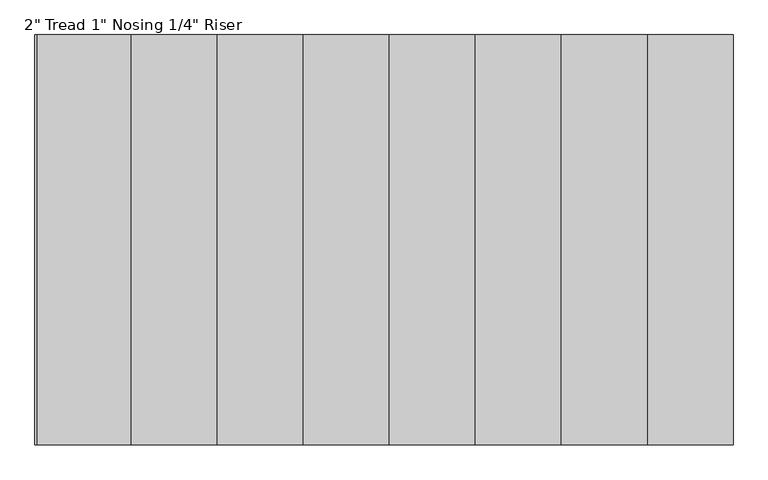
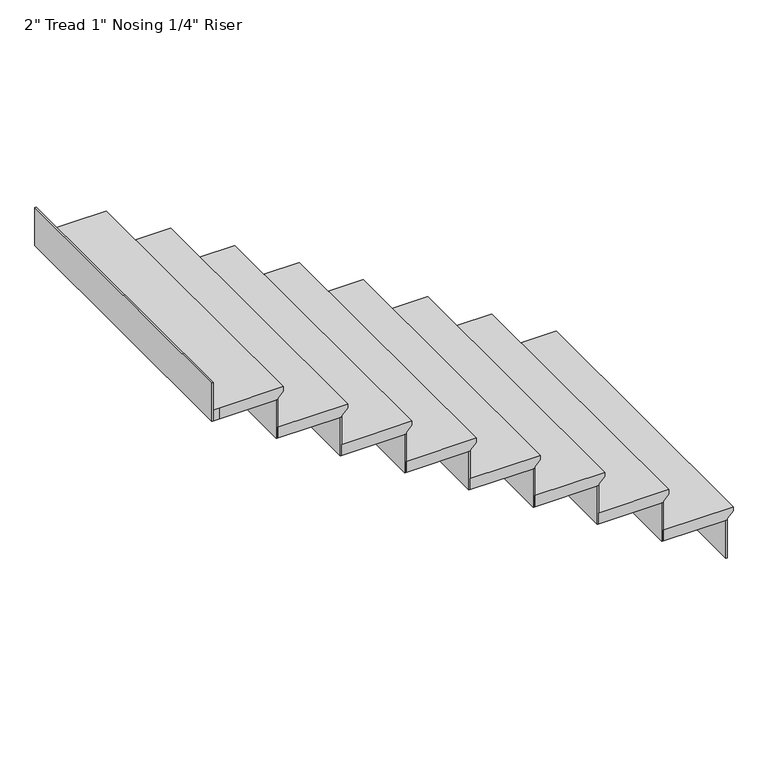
"""IFC4 building model written with IfcOpenShell, lengths in millimetres: stair flight geometry."""

import ifcopenshell
import ifcopenshell.guid

model = None  # the IFC model being written
_history = None  # IfcOwnerHistory: only IFC2X3 demands one
_inside = {}  # id of a spatial element -> (the spatial element, [elements in it])
_under = {}  # id of a project, library or spatial element -> (it, [spatial elements below it])
_declared = {}  # id of a project -> (the project, [libraries it declares])
_typed = {}  # id of a type object -> (the type object, [elements of that type])
_made_of = {}  # id of a material, layer set ... -> (it, [elements and type objects made of it])


def new_model(schema):
    """Start an empty IFC model of exactly this schema.

    Asked for "IFC4X3", IfcOpenShell would pick the latest addendum, in which some entities
    have other attributes; the version numbers below select the first issue.
    IFC2X3 requires an IfcOwnerHistory on every rooted entity: one is made here for all.
    """
    global model, _history
    if schema == "IFC4X3":
        model = ifcopenshell.file(schema_version=(4, 3, 0, 0))
    else:
        model = ifcopenshell.file(schema=schema)
    _inside.clear()
    _under.clear()
    _declared.clear()
    _typed.clear()
    _made_of.clear()
    _history = None
    if model.schema == "IFC2X3":
        org = make("IfcOrganization", Name="unknown")
        user = make(
            "IfcPersonAndOrganization",
            ThePerson=make("IfcPerson", FamilyName="unknown"),
            TheOrganization=org,
        )
        app = make(
            "IfcApplication",
            ApplicationDeveloper=org,
            Version="unknown",
            ApplicationFullName="unknown",
            ApplicationIdentifier="unknown",
        )
        _history = make(
            "IfcOwnerHistory",
            OwningUser=user,
            OwningApplication=app,
            ChangeAction="ADDED",
            CreationDate=0,
        )
    return model


def make(cls, **values):
    """One entity of the class cls with the attributes given. An attribute that is None is left unset."""
    return model.create_entity(
        cls, **{name: value for name, value in values.items() if value is not None}
    )


def rooted(cls, **values):
    """An entity with a GlobalId (a new one), such as an element, a storey or a relation."""
    return make(cls, GlobalId=ifcopenshell.guid.new(), OwnerHistory=_history, **values)


def si_unit(unit_type, name, prefix=None):
    """IfcSIUnit, for example si_unit("LENGTHUNIT", "METRE", prefix="MILLI")."""
    return make("IfcSIUnit", UnitType=unit_type, Prefix=prefix, Name=name)


def assignment(units):
    """IfcUnitAssignment: the units of a project."""
    return None if units is None else make("IfcUnitAssignment", Units=units)


def point(xyz):
    """IfcCartesianPoint."""
    return None if xyz is None else make("IfcCartesianPoint", Coordinates=xyz)


def direction(xyz):
    """IfcDirection."""
    return None if xyz is None else make("IfcDirection", DirectionRatios=xyz)


def frame(location, z_axis=None, x_axis=None):
    """IfcAxis2Placement3D, a coordinate frame: its origin and axes. An axis left out is left unset."""
    return make(
        "IfcAxis2Placement3D",
        Location=point(location),
        Axis=direction(z_axis),
        RefDirection=direction(x_axis),
    )


def origin():
    """The frame at (0, 0, 0) with its axes left unset."""
    return frame((0.0, 0.0, 0.0))


def place(relative_to, where):
    """IfcLocalPlacement: puts the frame where relative to a parent placement (None: the world)."""
    return make(
        "IfcLocalPlacement", PlacementRelTo=relative_to, RelativePlacement=where
    )


def context(
    kind, dimensions, precision=None, world=None, true_north=None, identifier=None
):
    """IfcGeometricRepresentationContext, for example the 3D "Model" context."""
    return make(
        "IfcGeometricRepresentationContext",
        ContextIdentifier=identifier,
        ContextType=kind,
        CoordinateSpaceDimension=dimensions,
        Precision=precision,
        WorldCoordinateSystem=world,
        TrueNorth=true_north,
    )


def project(units=None, contexts=None):
    """IfcProject with its units and contexts."""
    return rooted(
        "IfcProject",
        Name="project",
        RepresentationContexts=contexts,
        UnitsInContext=assignment(units),
    )


def spatial(cls, under=None, at=None, **own):
    """A site, building, storey or space (cls), placed at a placement, below another one or the project."""
    s = rooted(cls, ObjectPlacement=at, **own)
    if under is not None:
        _under.setdefault(under.id(), (under, []))[1].append(s)
    return s


def faces_of(points, faces, orient=None, outer=None):
    """IfcFace entities. A face is a list of loops; a loop is a list of indices into points, from 0.

    orient and outer hold one flag for each loop. By default every Orientation is true, the
    first loop of a face is its IfcFaceOuterBound and the others are IfcFaceBound.
    """
    made = []
    for i, loops in enumerate(faces):
        bounds = []
        for j, loop in enumerate(loops):
            is_outer = j == 0 if outer is None else outer[i][j]
            bounds.append(
                make(
                    "IfcFaceOuterBound" if is_outer else "IfcFaceBound",
                    Bound=make("IfcPolyLoop", Polygon=[points[k] for k in loop]),
                    Orientation=True if orient is None else orient[i][j],
                )
            )
        made.append(make("IfcFace", Bounds=bounds))
    return made


def faceted_brep(points, faces, orient=None, outer=None, voids=None):
    """IfcFacetedBrep: a solid bounded by flat faces; with voids (closed shells), ...WithVoids."""
    shared = [point(p) for p in points]
    hull = make("IfcClosedShell", CfsFaces=faces_of(shared, faces, orient, outer))
    if voids is None:
        return make("IfcFacetedBrep", Outer=hull)
    return make(
        "IfcFacetedBrepWithVoids",
        Outer=hull,
        Voids=[
            make(cls, CfsFaces=faces_of(shared, fs, o, b)) for cls, fs, o, b in voids
        ],
    )


def shape(context_of_items, identifier, shape_type, items):
    """IfcShapeRepresentation: the items that make up one representation, for example the "Body"."""
    return make(
        "IfcShapeRepresentation",
        ContextOfItems=context_of_items,
        RepresentationIdentifier=identifier,
        RepresentationType=shape_type,
        Items=items,
    )


def source(mapping_origin, context_of_items, identifier, shape_type, items):
    """IfcRepresentationMap: a shape defined once, which mapped items show again and again."""
    return make(
        "IfcRepresentationMap",
        MappingOrigin=mapping_origin,
        MappedRepresentation=shape(context_of_items, identifier, shape_type, items),
    )


def transform(
    local_origin,
    x_axis=None,
    y_axis=None,
    z_axis=None,
    scale=None,
    scale2=None,
    scale3=None,
    uniform=True,
):
    """IfcCartesianTransformationOperator3D, or its non-uniform kind. x_axis, y_axis, z_axis: its Axis1, 2, 3."""
    if uniform:
        return make(
            "IfcCartesianTransformationOperator3D",
            Axis1=direction(x_axis),
            Axis2=direction(y_axis),
            LocalOrigin=point(local_origin),
            Scale=scale,
            Axis3=direction(z_axis),
        )
    return make(
        "IfcCartesianTransformationOperator3DnonUniform",
        Axis1=direction(x_axis),
        Axis2=direction(y_axis),
        LocalOrigin=point(local_origin),
        Scale=scale,
        Axis3=direction(z_axis),
        Scale2=scale2,
        Scale3=scale3,
    )


def mapped(mapping_source, mapping_target):
    """IfcMappedItem: shows the shape of a source again, moved by a transform."""
    return make(
        "IfcMappedItem", MappingSource=mapping_source, MappingTarget=mapping_target
    )


def made_of(thing, what):
    """Note that an element or type object is made of a material, layer set ...; save() writes the relation."""
    if what is not None:
        _made_of.setdefault(what.id(), (what, []))[1].append(thing)
    return thing


def element(
    cls,
    number,
    at=None,
    inside=None,
    cuts=None,
    type_object=None,
    material=None,
    context=None,
    identifier="Body",
    shape_type=None,
    held_by="IfcProductDefinitionShape",
    body=None,
    shapes=None,
    **own,
):
    """One element of the class cls, such as IfcWall. Its Tag is "e" and its number.

    at: its placement. inside: the storey or other place that contains it. cuts: it is an
    opening in that element (IfcRelVoidsElement). A single representation is given by context,
    identifier, shape_type and body (its items); several are given by shapes. held_by: the class
    of the entity that holds the representations. save() writes the other relations.
    """
    e = rooted(cls, Tag="e%d" % number, ObjectPlacement=at, **own)
    if body is not None:
        shapes = [shape(context, identifier, shape_type, body)]
    if shapes is not None:
        e.Representation = make(held_by, Representations=shapes)
    if inside is not None:
        _inside.setdefault(inside.id(), (inside, []))[1].append(e)
    if cuts is not None:
        rooted(
            "IfcRelVoidsElement", RelatingBuildingElement=cuts, RelatedOpeningElement=e
        )
    if type_object is not None:
        _typed.setdefault(type_object.id(), (type_object, []))[1].append(e)
    return made_of(e, material)


def aggregate(whole, parts):
    """IfcRelAggregates: a whole, such as a stair, and the parts it consists of."""
    return rooted("IfcRelAggregates", RelatingObject=whole, RelatedObjects=parts)


def save(model, path):
    """Write the relations noted so far, then the file.

    IfcRelAggregates (storeys below a building ...), IfcRelContainedInSpatialStructure (elements
    in a storey), IfcRelDefinesByType, IfcRelAssociatesMaterial and IfcRelDeclares: one each for
    every whole, place, type object, material and project.
    """
    for whole, parts in _under.values():
        aggregate(whole, parts)
    for where, things in _inside.values():
        rooted(
            "IfcRelContainedInSpatialStructure",
            RelatedElements=things,
            RelatingStructure=where,
        )
    for kind, things in _typed.values():
        rooted("IfcRelDefinesByType", RelatedObjects=things, RelatingType=kind)
    for what, things in _made_of.values():
        rooted("IfcRelAssociatesMaterial", RelatedObjects=things, RelatingMaterial=what)
    for by, libraries in _declared.values():
        rooted("IfcRelDeclares", RelatingContext=by, RelatedDefinitions=libraries)
    model.write(path)


def stair_flight_2c01031d(model_context):
    return source(origin(), model_context, "Body", "Brep", [
        faceted_brep([(13373.1000296, 27698.7058721, 1546.9152174), (13373.1000296, 27698.7058721, 1565.9652174), (13373.1000296, 26365.9151067, 1565.9652174), (13373.1000296, 26365.9151067, 1546.9152174), (13347.7000296, 27698.7058721, 1521.5152174), (13347.7000296, 26365.9151067, 1521.5152174), (13068.3000296, 27698.7058721, 1565.9652174), (13068.3000296, 26365.9151067, 1565.9652174), (13347.7000296, 26365.9151067, 1515.1652174), (13068.3000296, 26365.9151067, 1515.1652174), (13068.3000296, 27698.7058721, 1515.1652174), (13347.7000296, 27698.7058721, 1515.1652174)], [[[0, 1, 2, 3]], [[4, 0, 3, 5]], [[2, 1, 6, 7]], [[8, 9, 10, 11]], [[2, 7, 9, 8, 5, 3]], [[8, 11, 4, 5]], [[6, 1, 0, 4, 11, 10]], [[7, 6, 10, 9]]]),
        faceted_brep([(13347.7000296, 27698.7058721, 1515.1652174), (13347.7000296, 27698.7058721, 1338.4695652), (13341.3500296, 27698.7058721, 1338.4695652), (13341.3500296, 27698.7058721, 1515.1652174), (13347.7000296, 26365.9151067, 1515.1652174), (13341.3500296, 26365.9151067, 1515.1652174), (13341.3500296, 26365.9151067, 1338.4695652), (13347.7000296, 26365.9151067, 1338.4695652)], [[[0, 1, 2, 3]], [[4, 5, 6, 7]], [[1, 0, 4, 7]], [[2, 1, 7, 6]], [[3, 2, 6, 5]], [[0, 3, 5, 4]]]),
        faceted_brep([(13068.3000296, 27698.7058721, 1691.8608696), (13068.3000296, 27698.7058721, 1515.1652174), (13061.9500296, 27698.7058721, 1515.1652174), (13061.9500296, 27698.7058721, 1691.8608696), (13068.3000296, 26365.9151067, 1691.8608696), (13061.9500296, 26365.9151067, 1691.8608696), (13061.9500296, 26365.9151067, 1515.1652174), (13068.3000296, 26365.9151067, 1515.1652174)], [[[0, 1, 2, 3]], [[4, 5, 6, 7]], [[1, 0, 4, 7]], [[2, 1, 7, 6]], [[3, 2, 6, 5]], [[0, 3, 5, 4]]]),
        faceted_brep([(13093.7000296, 26365.9151067, 1742.6608696), (13093.7000296, 27698.7058721, 1742.6608696), (12788.9000296, 27698.7058721, 1742.6608696), (12788.9000296, 26365.9151067, 1742.6608696), (13068.3000296, 26365.9151067, 1691.8608696), (12788.9000296, 26365.9151067, 1691.8608696), (12788.9000296, 27698.7058721, 1691.8608696), (13068.3000296, 27698.7058721, 1691.8608696), (13068.3000296, 26365.9151067, 1698.2108696), (13093.7000296, 26365.9151067, 1723.6108696), (13068.3000296, 27698.7058721, 1698.2108696), (13093.7000296, 27698.7058721, 1723.6108696)], [[[0, 1, 2, 3]], [[4, 5, 6, 7]], [[0, 3, 5, 4, 8, 9]], [[4, 7, 10, 8]], [[2, 1, 11, 10, 7, 6]], [[3, 2, 6, 5]], [[11, 1, 0, 9]], [[10, 11, 9, 8]]]),
        faceted_brep([(12788.9000296, 27698.7058721, 1868.5565217), (12788.9000296, 27698.7058721, 1691.8608696), (12782.5500296, 27698.7058721, 1691.8608696), (12782.5500296, 27698.7058721, 1868.5565217), (12788.9000296, 26365.9151067, 1868.5565217), (12782.5500296, 26365.9151067, 1868.5565217), (12782.5500296, 26365.9151067, 1691.8608696), (12788.9000296, 26365.9151067, 1691.8608696)], [[[0, 1, 2, 3]], [[4, 5, 6, 7]], [[1, 0, 4, 7]], [[2, 1, 7, 6]], [[3, 2, 6, 5]], [[0, 3, 5, 4]]]),
        faceted_brep([(12814.3000296, 26365.9151067, 1919.3565217), (12814.3000296, 27698.7058721, 1919.3565217), (12509.5000296, 27698.7058721, 1919.3565217), (12509.5000296, 26365.9151067, 1919.3565217), (12788.9000296, 26365.9151067, 1868.5565217), (12509.5000296, 26365.9151067, 1868.5565217), (12509.5000296, 27698.7058721, 1868.5565217), (12788.9000296, 27698.7058721, 1868.5565217), (12788.9000296, 26365.9151067, 1874.9065217), (12814.3000296, 26365.9151067, 1900.3065217), (12788.9000296, 27698.7058721, 1874.9065217), (12814.3000296, 27698.7058721, 1900.3065217)], [[[0, 1, 2, 3]], [[4, 5, 6, 7]], [[0, 3, 5, 4, 8, 9]], [[4, 7, 10, 8]], [[2, 1, 11, 10, 7, 6]], [[3, 2, 6, 5]], [[11, 1, 0, 9]], [[10, 11, 9, 8]]]),
        faceted_brep([(12509.5000296, 27698.7058721, 2045.2521739), (12509.5000296, 27698.7058721, 1868.5565217), (12503.1500296, 27698.7058721, 1868.5565217), (12503.1500296, 27698.7058721, 2045.2521739), (12509.5000296, 26365.9151067, 2045.2521739), (12503.1500296, 26365.9151067, 2045.2521739), (12503.1500296, 26365.9151067, 1868.5565217), (12509.5000296, 26365.9151067, 1868.5565217)], [[[0, 1, 2, 3]], [[4, 5, 6, 7]], [[1, 0, 4, 7]], [[2, 1, 7, 6]], [[3, 2, 6, 5]], [[0, 3, 5, 4]]]),
        faceted_brep([(12534.9000296, 26365.9151067, 2096.0521739), (12534.9000296, 27698.7058721, 2096.0521739), (12230.1000296, 27698.7058721, 2096.0521739), (12230.1000296, 26365.9151067, 2096.0521739), (12509.5000296, 26365.9151067, 2045.2521739), (12230.1000296, 26365.9151067, 2045.2521739), (12230.1000296, 27698.7058721, 2045.2521739), (12509.5000296, 27698.7058721, 2045.2521739), (12509.5000296, 26365.9151067, 2051.6021739), (12534.9000296, 26365.9151067, 2077.0021739), (12509.5000296, 27698.7058721, 2051.6021739), (12534.9000296, 27698.7058721, 2077.0021739)], [[[0, 1, 2, 3]], [[4, 5, 6, 7]], [[0, 3, 5, 4, 8, 9]], [[4, 7, 10, 8]], [[2, 1, 11, 10, 7, 6]], [[3, 2, 6, 5]], [[11, 1, 0, 9]], [[10, 11, 9, 8]]]),
        faceted_brep([(12230.1000296, 27698.7058721, 2221.9478261), (12230.1000296, 27698.7058721, 2045.2521739), (12223.7500296, 27698.7058721, 2045.2521739), (12223.7500296, 27698.7058721, 2221.9478261), (12230.1000296, 26365.9151067, 2221.9478261), (12223.7500296, 26365.9151067, 2221.9478261), (12223.7500296, 26365.9151067, 2045.2521739), (12230.1000296, 26365.9151067, 2045.2521739)], [[[0, 1, 2, 3]], [[4, 5, 6, 7]], [[1, 0, 4, 7]], [[2, 1, 7, 6]], [[3, 2, 6, 5]], [[0, 3, 5, 4]]]),
        faceted_brep([(12255.5000296, 26365.9151067, 2272.7478261), (12255.5000296, 27698.7058721, 2272.7478261), (11950.7000296, 27698.7058721, 2272.7478261), (11950.7000296, 26365.9151067, 2272.7478261), (12230.1000296, 26365.9151067, 2221.9478261), (11950.7000296, 26365.9151067, 2221.9478261), (11950.7000296, 27698.7058721, 2221.9478261), (12230.1000296, 27698.7058721, 2221.9478261), (12230.1000296, 26365.9151067, 2228.2978261), (12255.5000296, 26365.9151067, 2253.6978261), (12230.1000296, 27698.7058721, 2228.2978261), (12255.5000296, 27698.7058721, 2253.6978261)], [[[0, 1, 2, 3]], [[4, 5, 6, 7]], [[0, 3, 5, 4, 8, 9]], [[4, 7, 10, 8]], [[2, 1, 11, 10, 7, 6]], [[3, 2, 6, 5]], [[11, 1, 0, 9]], [[10, 11, 9, 8]]]),
        faceted_brep([(11950.7000296, 27698.7058721, 2398.6434783), (11950.7000296, 27698.7058721, 2221.9478261), (11944.3500296, 27698.7058721, 2221.9478261), (11944.3500296, 27698.7058721, 2398.6434783), (11950.7000296, 26365.9151067, 2398.6434783), (11944.3500296, 26365.9151067, 2398.6434783), (11944.3500296, 26365.9151067, 2221.9478261), (11950.7000296, 26365.9151067, 2221.9478261)], [[[0, 1, 2, 3]], [[4, 5, 6, 7]], [[1, 0, 4, 7]], [[2, 1, 7, 6]], [[3, 2, 6, 5]], [[0, 3, 5, 4]]]),
        faceted_brep([(11976.1000296, 26365.9151067, 2449.4434783), (11976.1000296, 27698.7058721, 2449.4434783), (11671.3000296, 27698.7058721, 2449.4434783), (11671.3000296, 26365.9151067, 2449.4434783), (11950.7000296, 26365.9151067, 2398.6434783), (11671.3000296, 26365.9151067, 2398.6434783), (11671.3000296, 27698.7058721, 2398.6434783), (11950.7000296, 27698.7058721, 2398.6434783), (11950.7000296, 26365.9151067, 2404.9934783), (11976.1000296, 26365.9151067, 2430.3934783), (11950.7000296, 27698.7058721, 2404.9934783), (11976.1000296, 27698.7058721, 2430.3934783)], [[[0, 1, 2, 3]], [[4, 5, 6, 7]], [[0, 3, 5, 4, 8, 9]], [[4, 7, 10, 8]], [[2, 1, 11, 10, 7, 6]], [[3, 2, 6, 5]], [[11, 1, 0, 9]], [[10, 11, 9, 8]]]),
        faceted_brep([(11671.3000296, 27698.7058721, 2575.3391304), (11671.3000296, 27698.7058721, 2398.6434783), (11664.9500296, 27698.7058721, 2398.6434783), (11664.9500296, 27698.7058721, 2575.3391304), (11671.3000296, 26365.9151067, 2575.3391304), (11664.9500296, 26365.9151067, 2575.3391304), (11664.9500296, 26365.9151067, 2398.6434783), (11671.3000296, 26365.9151067, 2398.6434783)], [[[0, 1, 2, 3]], [[4, 5, 6, 7]], [[1, 0, 4, 7]], [[2, 1, 7, 6]], [[3, 2, 6, 5]], [[0, 3, 5, 4]]]),
        faceted_brep([(11696.7000296, 26365.9151067, 2626.1391304), (11696.7000296, 27698.7058721, 2626.1391304), (11391.9000296, 27698.7058721, 2626.1391304), (11391.9000296, 26365.9151067, 2626.1391304), (11671.3000296, 26365.9151067, 2575.3391304), (11391.9000296, 26365.9151067, 2575.3391304), (11391.9000296, 27698.7058721, 2575.3391304), (11671.3000296, 27698.7058721, 2575.3391304), (11671.3000296, 26365.9151067, 2581.6891304), (11696.7000296, 26365.9151067, 2607.0891304), (11671.3000296, 27698.7058721, 2581.6891304), (11696.7000296, 27698.7058721, 2607.0891304)], [[[0, 1, 2, 3]], [[4, 5, 6, 7]], [[0, 3, 5, 4, 8, 9]], [[4, 7, 10, 8]], [[2, 1, 11, 10, 7, 6]], [[3, 2, 6, 5]], [[11, 1, 0, 9]], [[10, 11, 9, 8]]]),
        faceted_brep([(11112.5000296, 27698.7058721, 2928.7304348), (11112.5000296, 27698.7058721, 2752.0347826), (11106.1500296, 27698.7058721, 2752.0347826), (11106.1500296, 27698.7058721, 2928.7304348), (11112.5000296, 26365.9151067, 2928.7304348), (11106.1500296, 26365.9151067, 2928.7304348), (11106.1500296, 26365.9151067, 2752.0347826), (11112.5000296, 26365.9151067, 2752.0347826)], [[[0, 1, 2, 3]], [[4, 5, 6, 7]], [[1, 0, 4, 7]], [[2, 1, 7, 6]], [[3, 2, 6, 5]], [[0, 3, 5, 4]]]),
        faceted_brep([(11391.9000296, 27698.7058721, 2752.0347826), (11391.9000296, 27698.7058721, 2575.3391304), (11385.5500296, 27698.7058721, 2575.3391304), (11385.5500296, 27698.7058721, 2752.0347826), (11391.9000296, 26365.9151067, 2752.0347826), (11385.5500296, 26365.9151067, 2752.0347826), (11385.5500296, 26365.9151067, 2575.3391304), (11391.9000296, 26365.9151067, 2575.3391304)], [[[0, 1, 2, 3]], [[4, 5, 6, 7]], [[1, 0, 4, 7]], [[2, 1, 7, 6]], [[3, 2, 6, 5]], [[0, 3, 5, 4]]]),
        faceted_brep([(11112.5000296, 26365.9151067, 2802.8347826), (11137.9000296, 26365.9151067, 2802.8347826), (11417.3000296, 26365.9151067, 2802.8347826), (11417.3000296, 27698.7058721, 2802.8347826), (11112.5000296, 27698.7058721, 2802.8347826), (11137.9000296, 26365.9151067, 2752.0347826), (11112.5000296, 26365.9151067, 2752.0347826), (11112.5000296, 27698.7058721, 2752.0347826), (11391.9000296, 27698.7058721, 2752.0347826), (11391.9000296, 26365.9151067, 2752.0347826), (11391.9000296, 26365.9151067, 2758.3847826), (11417.3000296, 26365.9151067, 2783.7847826), (11391.9000296, 27698.7058721, 2758.3847826), (11417.3000296, 27698.7058721, 2783.7847826)], [[[0, 1, 2, 3, 4]], [[5, 6, 7, 8, 9]], [[1, 0, 6, 5]], [[2, 1, 5, 9, 10, 11]], [[9, 8, 12, 10]], [[4, 3, 13, 12, 8, 7]], [[0, 4, 7, 6]], [[13, 3, 2, 11]], [[12, 13, 11, 10]]]),
    ])


if __name__ == "__main__":
    model = new_model("IFC4")
    model_context = context("Model", 3, world=origin())
    ifc_project = project(units=[si_unit("LENGTHUNIT", "METRE", prefix="MILLI")], contexts=[model_context])
    site = spatial("IfcSite", under=ifc_project)
    building = spatial("IfcBuilding", under=site)
    placement = place(None, origin())
    stair_flight_shape = stair_flight_2c01031d(model_context)
    element("IfcStairFlight", 1, ObjectType="2\" Tread 1\" Nosing 1/4\" Riser", at=placement, inside=building, context=model_context, shape_type="MappedRepresentation", body=[
        mapped(stair_flight_shape, transform((0.0, 0.0, 0.0), x_axis=(1.0, 0.0, 0.0), y_axis=(0.0, 1.0, 0.0), z_axis=(0.0, 0.0, 1.0))),
    ])
    save(model, "model.ifc")
